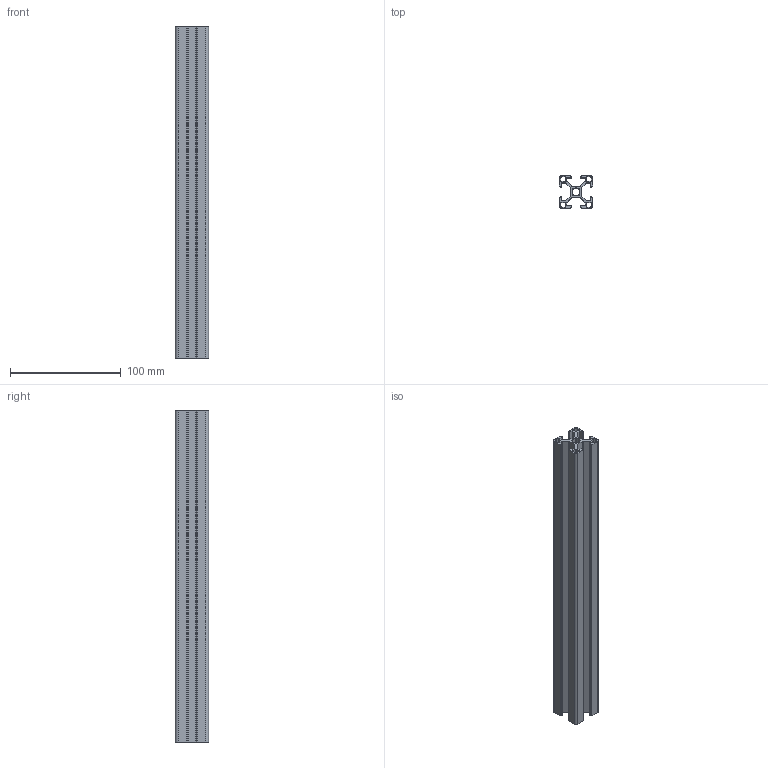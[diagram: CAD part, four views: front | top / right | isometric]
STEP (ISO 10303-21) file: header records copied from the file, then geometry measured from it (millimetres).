
FILE_DESCRIPTION (( 'STEP AP203' ), '1' );
FILE_NAME ('11-CE-3030L-8.STEP', '2015-07-07T04:01:16', ( '' ), ( '' ), 'SwSTEP 2.0', 'SolidWorks 2013', '' );
FILE_SCHEMA (( 'CONFIG_CONTROL_DESIGN' ));
Length unit declared in the file: millimetre
Products named in the file (1): 11-CE-3030L-8
Bounding box: 30 x 30 x 300 mm (x, y, z)
Volume: 78621 mm3; surface area: 100005 mm2
Topology: 1 solids, 1 shells, 151 faces, 447 edges, 298 vertices
Faces by surface type: plane 86, cylinder 65
Entity records: 5168 total; most frequent: CARTESIAN_POINT 897, ORIENTED_EDGE 894, DIRECTION 881, EDGE_CURVE 447, VECTOR 317, LINE 317, VERTEX_POINT 298, AXIS2_PLACEMENT_3D 282
